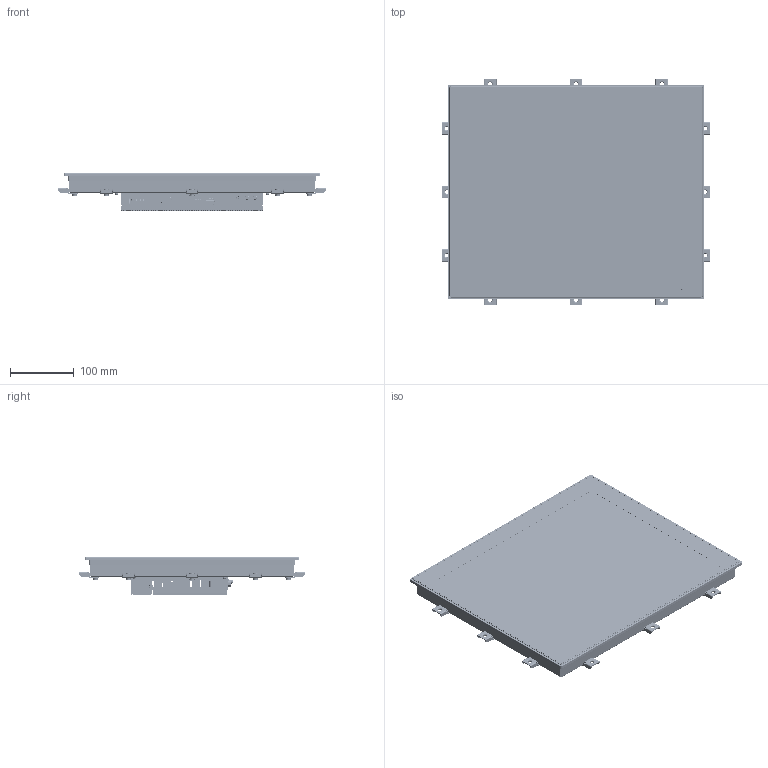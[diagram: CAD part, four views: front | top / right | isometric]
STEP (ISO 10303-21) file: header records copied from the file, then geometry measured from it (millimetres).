
FILE_DESCRIPTION((''),'2;1');
FILE_NAME('APL4C-170','2026-06-02T13:02:58',('gijyu181'),(''),'CREO PARAMETRIC BY PTC INC, 2018050','CREO PARAMETRIC BY PTC INC, 2018050','');
FILE_SCHEMA(('CONFIG_CONTROL_DESIGN','SHAPE_APPEARANCE_LAYERS_GROUPS'));
Products named in the file (1): APL4C-170
Bounding box: 422 x 356 x 60.87 mm (x, y, z)
Volume: 1804239.7 mm3; surface area: 1182502 mm2
Topology: 52 solids, 138 shells, 23915 faces, 69363 edges, 45675 vertices
Faces by surface type: plane 16512, cylinder 5020, extrusion 1249, bspline 344, cone 335, torus 313, sphere 130, revolution 12
Entity records: 925812 total; most frequent: CARTESIAN_POINT 176111, ORIENTED_EDGE 138430, DIRECTION 123245, EDGE_CURVE 69289, VECTOR 54769, LINE 53520, VERTEX_POINT 45673, AXIS2_PLACEMENT_3D 34232
